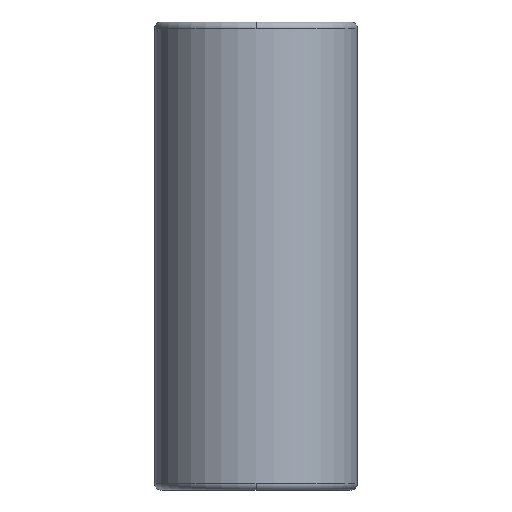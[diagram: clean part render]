
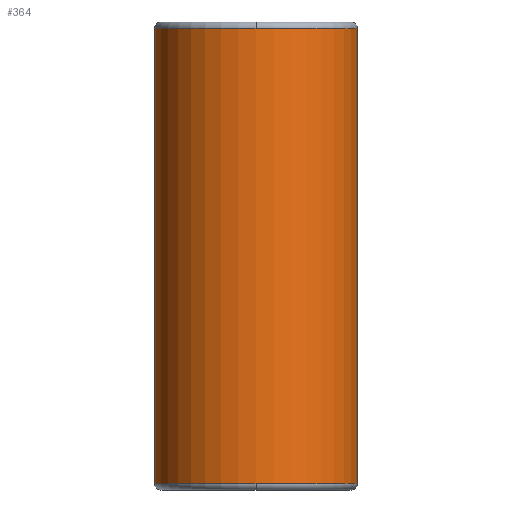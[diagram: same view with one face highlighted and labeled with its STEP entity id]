
A CAD part, front view. The second image highlights one B-rep face of the part: STEP entity #364.
In plain terms, the highlighted cylindrical face has radius 32.493 mm (diameter 64.986 mm), a partial arc.
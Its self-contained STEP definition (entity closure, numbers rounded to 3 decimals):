
#269=CARTESIAN_POINT('',(0.0,-32.493,148.0));
#270=VERTEX_POINT('',#269);
#296=CARTESIAN_POINT('',(-32.493,0.,148.0));
#297=VERTEX_POINT('',#296);
#305=CARTESIAN_POINT('',(0.0,0.,148.0));
#306=DIRECTION('',(0.0,0.0,1.0));
#307=DIRECTION('',(1.0,0.0,0.0));
#308=AXIS2_PLACEMENT_3D('',#305,#306,#307);
#309=CIRCLE('',#308,32.493);
#310=EDGE_CURVE('',#297,#270,#309,.T.);
#315=CARTESIAN_POINT('',(0.0,0.,75.0));
#316=DIRECTION('',(0.0,0.,1.0));
#317=DIRECTION('',(1.0,0.0,0.0));
#318=AXIS2_PLACEMENT_3D('',#315,#316,#317);
#319=CYLINDRICAL_SURFACE('',#318,32.493);
#320=CARTESIAN_POINT('',(32.493,0.,148.0));
#321=VERTEX_POINT('',#320);
#322=CARTESIAN_POINT('',(32.493,0.,2.));
#323=VERTEX_POINT('',#322);
#324=CARTESIAN_POINT('',(32.493,0.,148.0));
#325=DIRECTION('',(0.0,0.0,-1.0));
#326=VECTOR('',#325,146.0);
#327=LINE('',#324,#326);
#328=EDGE_CURVE('',#321,#323,#327,.T.);
#329=ORIENTED_EDGE('',*,*,#328,.F.);
#330=CARTESIAN_POINT('',(0.0,0.,148.0));
#331=DIRECTION('',(0.0,0.0,1.0));
#332=DIRECTION('',(1.0,0.0,0.0));
#333=AXIS2_PLACEMENT_3D('',#330,#331,#332);
#334=CIRCLE('',#333,32.493);
#335=EDGE_CURVE('',#270,#321,#334,.T.);
#336=ORIENTED_EDGE('',*,*,#335,.F.);
#337=ORIENTED_EDGE('',*,*,#310,.F.);
#338=CARTESIAN_POINT('',(-32.493,0.,2.));
#339=VERTEX_POINT('',#338);
#340=CARTESIAN_POINT('',(-32.493,0.,148.0));
#341=DIRECTION('',(0.0,0.0,-1.0));
#342=VECTOR('',#341,146.0);
#343=LINE('',#340,#342);
#344=EDGE_CURVE('',#297,#339,#343,.T.);
#345=ORIENTED_EDGE('',*,*,#344,.T.);
#346=CARTESIAN_POINT('',(0.0,-32.493,2.));
#347=VERTEX_POINT('',#346);
#348=CARTESIAN_POINT('',(0.0,0.,2.0));
#349=DIRECTION('',(0.0,0.0,1.0));
#350=DIRECTION('',(1.0,0.0,0.0));
#351=AXIS2_PLACEMENT_3D('',#348,#349,#350);
#352=CIRCLE('',#351,32.493);
#353=EDGE_CURVE('',#339,#347,#352,.T.);
#354=ORIENTED_EDGE('',*,*,#353,.T.);
#355=CARTESIAN_POINT('',(0.0,0.,2.0));
#356=DIRECTION('',(0.0,0.0,1.0));
#357=DIRECTION('',(1.0,0.0,0.0));
#358=AXIS2_PLACEMENT_3D('',#355,#356,#357);
#359=CIRCLE('',#358,32.493);
#360=EDGE_CURVE('',#347,#323,#359,.T.);
#361=ORIENTED_EDGE('',*,*,#360,.T.);
#362=EDGE_LOOP('',(#329,#336,#337,#345,#354,#361));
#363=FACE_OUTER_BOUND('',#362,.T.);
#364=ADVANCED_FACE('',(#363),#319,.T.);
